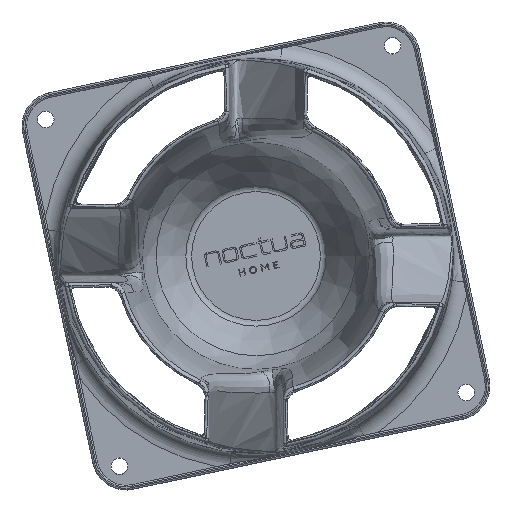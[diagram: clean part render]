
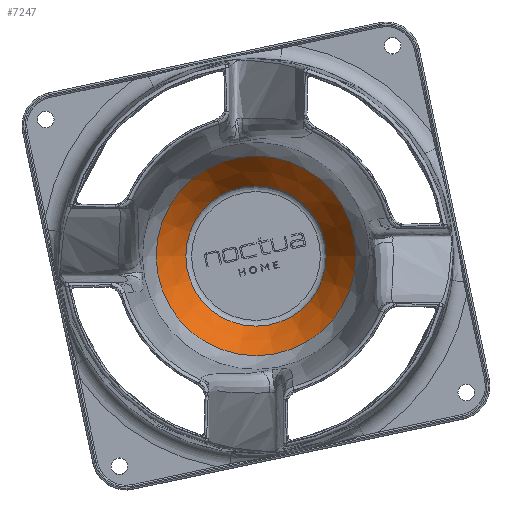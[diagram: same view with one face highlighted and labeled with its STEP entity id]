
A CAD part, top view. The second image highlights one B-rep face of the part: STEP entity #7247.
In plain terms, the highlighted conical face has half-angle 31.985 degrees and reference radius 20.189 mm.
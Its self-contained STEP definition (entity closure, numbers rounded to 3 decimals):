
#136=CONICAL_SURFACE('',#7763,20.189,0.558);
#706=LINE('',#30390,#1123);
#1123=VECTOR('',#9165,20.189);
#1685=FACE_OUTER_BOUND('',#2121,.T.);
#2121=EDGE_LOOP('',(#6750,#6751,#6752,#6753,#6754));
#2342=CIRCLE('',#7764,20.776);
#2343=CIRCLE('',#7765,29.563);
#2344=CIRCLE('',#7766,29.563);
#3477=VERTEX_POINT('',#30387);
#3478=VERTEX_POINT('',#30389);
#3479=VERTEX_POINT('',#30391);
#4578=EDGE_CURVE('',#3477,#3477,#2342,.T.);
#4579=EDGE_CURVE('',#3477,#3478,#706,.T.);
#4580=EDGE_CURVE('',#3478,#3479,#2343,.T.);
#4581=EDGE_CURVE('',#3479,#3478,#2344,.T.);
#6750=ORIENTED_EDGE('',*,*,#4578,.T.);
#6751=ORIENTED_EDGE('',*,*,#4579,.T.);
#6752=ORIENTED_EDGE('',*,*,#4580,.T.);
#6753=ORIENTED_EDGE('',*,*,#4581,.T.);
#6754=ORIENTED_EDGE('',*,*,#4579,.F.);
#7247=ADVANCED_FACE('',(#1685),#136,.F.);
#7763=AXIS2_PLACEMENT_3D('',#30386,#9161,#9162);
#7764=AXIS2_PLACEMENT_3D('',#30388,#9163,#9164);
#7765=AXIS2_PLACEMENT_3D('',#30392,#9166,#9167);
#7766=AXIS2_PLACEMENT_3D('',#30393,#9168,#9169);
#9161=DIRECTION('center_axis',(0.,0.,1.));
#9162=DIRECTION('ref_axis',(1.,0.,0.));
#9163=DIRECTION('center_axis',(0.,0.,-1.));
#9164=DIRECTION('ref_axis',(-1.,0.,0.));
#9165=DIRECTION('',(-0.53,0.,0.848));
#9166=DIRECTION('center_axis',(0.,0.,1.));
#9167=DIRECTION('ref_axis',(1.,0.,0.));
#9168=DIRECTION('center_axis',(0.,0.,1.));
#9169=DIRECTION('ref_axis',(1.,0.,0.));
#30386=CARTESIAN_POINT('Origin',(0.,0.,1.5));
#30387=CARTESIAN_POINT('',(-20.776,0.,2.441));
#30388=CARTESIAN_POINT('Origin',(0.,0.,2.441));
#30389=CARTESIAN_POINT('',(-29.563,0.,16.51));
#30390=CARTESIAN_POINT('',(-20.189,0.,1.5));
#30391=CARTESIAN_POINT('',(29.563,0.,16.51));
#30392=CARTESIAN_POINT('Origin',(0.,0.,16.51));
#30393=CARTESIAN_POINT('Origin',(0.,0.,16.51));
